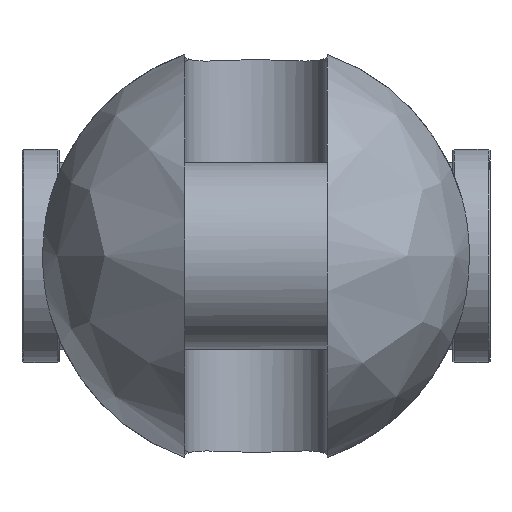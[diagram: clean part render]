
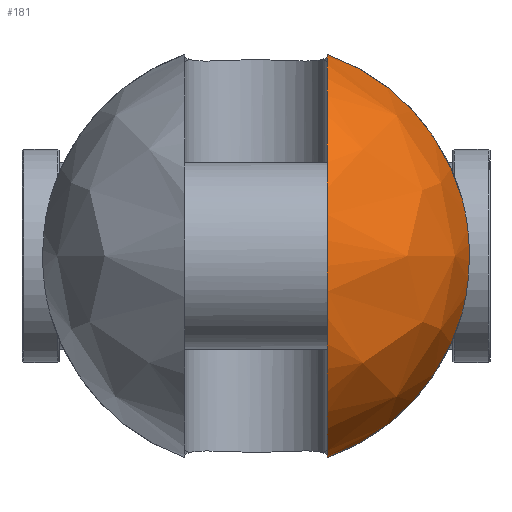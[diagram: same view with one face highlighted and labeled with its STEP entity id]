
A CAD part, left-side view. The second image highlights one B-rep face of the part: STEP entity #181.
In plain terms, the highlighted free-form (B-spline) face has degree [2, 2] with [9, 5] control points.
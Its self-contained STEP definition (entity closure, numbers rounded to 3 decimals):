
#181=ADVANCED_FACE('',(#324),#2453,.T.);
#324=FACE_OUTER_BOUND('',#487,.T.);
#487=EDGE_LOOP('',(#1212,#1213,#1214,#1215));
#1212=ORIENTED_EDGE('',*,*,#1603,.T.);
#1213=ORIENTED_EDGE('',*,*,#1627,.F.);
#1214=ORIENTED_EDGE('',*,*,#1639,.T.);
#1215=ORIENTED_EDGE('',*,*,#1619,.F.);
#1603=EDGE_CURVE('',#2283,#2282,#2013,.T.);
#1619=EDGE_CURVE('',#2283,#2295,#2023,.T.);
#1627=EDGE_CURVE('',#2302,#2282,#2024,.T.);
#1639=EDGE_CURVE('',#2302,#2295,#1815,.T.);
#1815=B_SPLINE_CURVE_WITH_KNOTS('',3,(#6291,#6292,#6293,#6294,#6295,#6296,
#6297,#6298,#6299,#6300,#6301,#6302,#6303,#6304),.UNSPECIFIED.,.F.,.F.,
(4,2,2,2,2,2,4),(0.,4.922,11.207,17.492,
23.778,30.063,34.985),.UNSPECIFIED.);
#2013=(
BOUNDED_CURVE()
B_SPLINE_CURVE(2,(#6059,#6060,#6061,#6062,#6063),.UNSPECIFIED.,.F.,.F.)
B_SPLINE_CURVE_WITH_KNOTS((3,2,3),(-186.601,-93.301,
0.),.UNSPECIFIED.)
CURVE()
GEOMETRIC_REPRESENTATION_ITEM()
RATIONAL_B_SPLINE_CURVE((1.,0.707,1.,0.707,1.))
REPRESENTATION_ITEM('')
);
#2023=(
BOUNDED_CURVE()
B_SPLINE_CURVE(2,(#6161,#6162,#6163),.UNSPECIFIED.,.F.,.F.)
B_SPLINE_CURVE_WITH_KNOTS((3,3),(0.,60.856),.UNSPECIFIED.)
CURVE()
GEOMETRIC_REPRESENTATION_ITEM()
RATIONAL_B_SPLINE_CURVE((1.,0.886,1.))
REPRESENTATION_ITEM('')
);
#2024=(
BOUNDED_CURVE()
B_SPLINE_CURVE(2,(#6218,#6219,#6220),.UNSPECIFIED.,.F.,.F.)
B_SPLINE_CURVE_WITH_KNOTS((3,3),(0.,60.856),.UNSPECIFIED.)
CURVE()
GEOMETRIC_REPRESENTATION_ITEM()
RATIONAL_B_SPLINE_CURVE((1.,0.886,1.))
REPRESENTATION_ITEM('')
);
#2282=VERTEX_POINT('',#5919);
#2283=VERTEX_POINT('',#5920);
#2295=VERTEX_POINT('',#5932);
#2302=VERTEX_POINT('',#5939);
#2453=(
BOUNDED_SURFACE()
B_SPLINE_SURFACE(2,2,((#5633,#5634,#5635,#5636,#5637),(#5638,#5639,#5640,
#5641,#5642),(#5643,#5644,#5645,#5646,#5647),(#5648,#5649,#5650,#5651,#5652),
(#5653,#5654,#5655,#5656,#5657),(#5658,#5659,#5660,#5661,#5662),(#5663,
#5664,#5665,#5666,#5667),(#5668,#5669,#5670,#5671,#5672),(#5673,#5674,#5675,
#5676,#5677)),.UNSPECIFIED.,.T.,.F.,.F.)
B_SPLINE_SURFACE_WITH_KNOTS((3,2,2,2,3),(3,2,3),(0.,98.96,197.92,
296.881,395.841),(0.,98.96,197.92),
 .UNSPECIFIED.)
GEOMETRIC_REPRESENTATION_ITEM()
RATIONAL_B_SPLINE_SURFACE(((1.,0.707,1.,0.707,1.),
(0.707,0.5,0.707,0.5,0.707),(1.,0.707,
1.,0.707,1.),(0.707,0.5,0.707,0.5,0.707),
(1.,0.707,1.,0.707,1.),(0.707,0.5,0.707,
0.5,0.707),(1.,0.707,1.,0.707,1.),(0.707,
0.5,0.707,0.5,0.707),(1.,0.707,1.,0.707,
1.)))
REPRESENTATION_ITEM('')
SURFACE()
);
#5633=CARTESIAN_POINT('',(-91.,0.,0.));
#5634=CARTESIAN_POINT('',(-91.,63.,0.));
#5635=CARTESIAN_POINT('',(-28.,63.,0.));
#5636=CARTESIAN_POINT('',(35.,63.,0.));
#5637=CARTESIAN_POINT('',(35.,0.,0.));
#5638=CARTESIAN_POINT('',(-91.,0.,0.));
#5639=CARTESIAN_POINT('',(-91.,63.,63.));
#5640=CARTESIAN_POINT('',(-28.,63.,63.));
#5641=CARTESIAN_POINT('',(35.,63.,63.));
#5642=CARTESIAN_POINT('',(35.,0.,0.));
#5643=CARTESIAN_POINT('',(-91.,0.,0.));
#5644=CARTESIAN_POINT('',(-91.,0.,63.));
#5645=CARTESIAN_POINT('',(-28.,0.,63.));
#5646=CARTESIAN_POINT('',(35.,0.,63.));
#5647=CARTESIAN_POINT('',(35.,0.,0.));
#5648=CARTESIAN_POINT('',(-91.,0.,0.));
#5649=CARTESIAN_POINT('',(-91.,-63.,63.));
#5650=CARTESIAN_POINT('',(-28.,-63.,63.));
#5651=CARTESIAN_POINT('',(35.,-63.,63.));
#5652=CARTESIAN_POINT('',(35.,0.,0.));
#5653=CARTESIAN_POINT('',(-91.,0.,0.));
#5654=CARTESIAN_POINT('',(-91.,-63.,0.));
#5655=CARTESIAN_POINT('',(-28.,-63.,0.));
#5656=CARTESIAN_POINT('',(35.,-63.,0.));
#5657=CARTESIAN_POINT('',(35.,0.,0.));
#5658=CARTESIAN_POINT('',(-91.,0.,0.));
#5659=CARTESIAN_POINT('',(-91.,-63.,-63.));
#5660=CARTESIAN_POINT('',(-28.,-63.,-63.));
#5661=CARTESIAN_POINT('',(35.,-63.,-63.));
#5662=CARTESIAN_POINT('',(35.,0.,0.));
#5663=CARTESIAN_POINT('',(-91.,0.,0.));
#5664=CARTESIAN_POINT('',(-91.,0.,-63.));
#5665=CARTESIAN_POINT('',(-28.,0.,-63.));
#5666=CARTESIAN_POINT('',(35.,0.,-63.));
#5667=CARTESIAN_POINT('',(35.,0.,0.));
#5668=CARTESIAN_POINT('',(-91.,0.,0.));
#5669=CARTESIAN_POINT('',(-91.,63.,-63.));
#5670=CARTESIAN_POINT('',(-28.,63.,-63.));
#5671=CARTESIAN_POINT('',(35.,63.,-63.));
#5672=CARTESIAN_POINT('',(35.,0.,0.));
#5673=CARTESIAN_POINT('',(-91.,0.,0.));
#5674=CARTESIAN_POINT('',(-91.,63.,0.));
#5675=CARTESIAN_POINT('',(-28.,63.,0.));
#5676=CARTESIAN_POINT('',(35.,63.,0.));
#5677=CARTESIAN_POINT('',(35.,0.,0.));
#5919=CARTESIAN_POINT('',(-28.,-21.,-59.397));
#5920=CARTESIAN_POINT('',(-28.,-21.,59.397));
#5932=CARTESIAN_POINT('',(-28.,-60.801,16.5));
#5939=CARTESIAN_POINT('',(-28.,-60.801,-16.5));
#6059=CARTESIAN_POINT('',(-28.,-21.,59.397));
#6060=CARTESIAN_POINT('',(-87.397,-21.,59.397));
#6061=CARTESIAN_POINT('',(-87.397,-21.,0.));
#6062=CARTESIAN_POINT('',(-87.397,-21.,-59.397));
#6063=CARTESIAN_POINT('',(-28.,-21.,-59.397));
#6161=CARTESIAN_POINT('',(-28.,-21.,59.397));
#6162=CARTESIAN_POINT('',(-28.,-52.148,48.384));
#6163=CARTESIAN_POINT('',(-28.,-60.801,16.5));
#6218=CARTESIAN_POINT('',(-28.,-60.801,-16.5));
#6219=CARTESIAN_POINT('',(-28.,-52.148,-48.384));
#6220=CARTESIAN_POINT('',(-28.,-21.,-59.397));
#6291=CARTESIAN_POINT('',(-28.,-60.801,-16.5));
#6292=CARTESIAN_POINT('',(-28.816,-61.177,-15.115));
#6293=CARTESIAN_POINT('',(-29.541,-61.507,-13.648));
#6294=CARTESIAN_POINT('',(-30.932,-62.138,-10.189));
#6295=CARTESIAN_POINT('',(-31.528,-62.405,-8.159));
#6296=CARTESIAN_POINT('',(-32.312,-62.756,-4.065));
#6297=CARTESIAN_POINT('',(-32.5,-62.839,-2.001));
#6298=CARTESIAN_POINT('',(-32.5,-62.839,2.001));
#6299=CARTESIAN_POINT('',(-32.312,-62.756,4.065));
#6300=CARTESIAN_POINT('',(-31.528,-62.405,8.159));
#6301=CARTESIAN_POINT('',(-30.932,-62.138,10.189));
#6302=CARTESIAN_POINT('',(-29.541,-61.507,13.648));
#6303=CARTESIAN_POINT('',(-28.816,-61.177,15.115));
#6304=CARTESIAN_POINT('',(-28.,-60.801,16.5));
